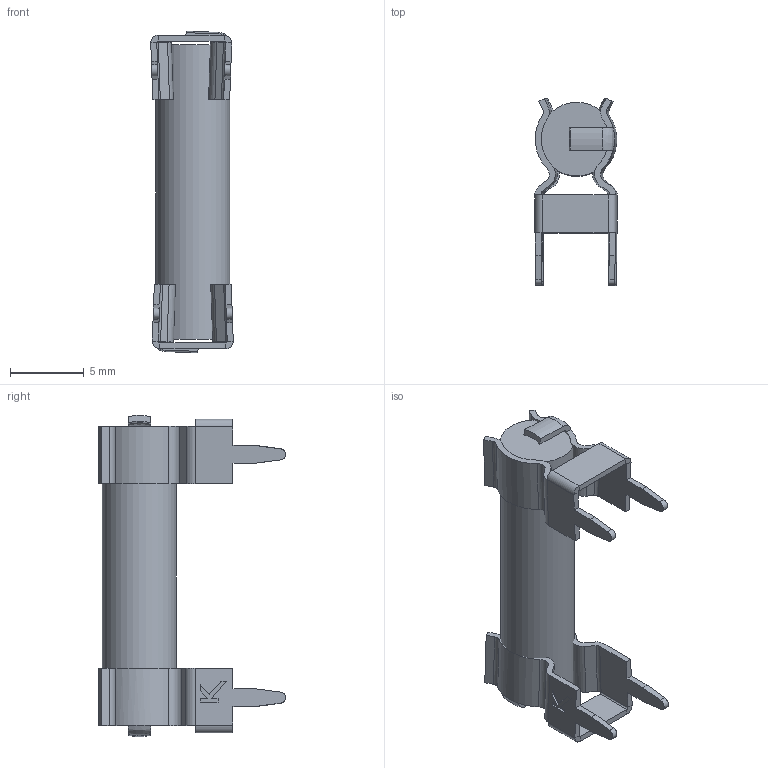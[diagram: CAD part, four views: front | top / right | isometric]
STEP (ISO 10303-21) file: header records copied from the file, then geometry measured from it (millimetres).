
FILE_DESCRIPTION(/* description */ (''),/* implementation_level */ '2;1');
FILE_NAME(/* name */ 'C:/Users/Nicholas/Downloads/5x20 Fuse v9.step',/* time_stamp */ '2021-08-19T21:23:49-07:00',/* author */ (''),/* organization */ (''),/* preprocessor_version */ 'ST-DEVELOPER v18.1',/* originating_system */ 'Autodesk Translation Framework v10.9.0.1377',/* authorisation */ '');
FILE_SCHEMA (('AUTOMOTIVE_DESIGN { 1 0 10303 214 3 1 1 }'));
Length unit declared in the file: millimetre
Products named in the file (2): 5x20 Fuse; keystone-PN3519
Assembly tree (2 placements, depth 2):
  5x20 Fuse
    keystone-PN3519  x2
Bounding box: 5.59 x 12.67 x 21.8 mm (x, y, z)
Volume: 475.6 mm3; surface area: 829.4 mm2
Topology: 3 solids, 3 shells, 163 faces, 417 edges, 262 vertices
Faces by surface type: plane 110, cylinder 45, bspline 8
Full cylindrical faces by diameter (mm): 5 x1
Entity records: 2567 total; most frequent: CARTESIAN_POINT 473, DIRECTION 434, ORIENTED_EDGE 420, EDGE_CURVE 210, LINE 152, VECTOR 152, AXIS2_PLACEMENT_3D 141, VERTEX_POINT 132
